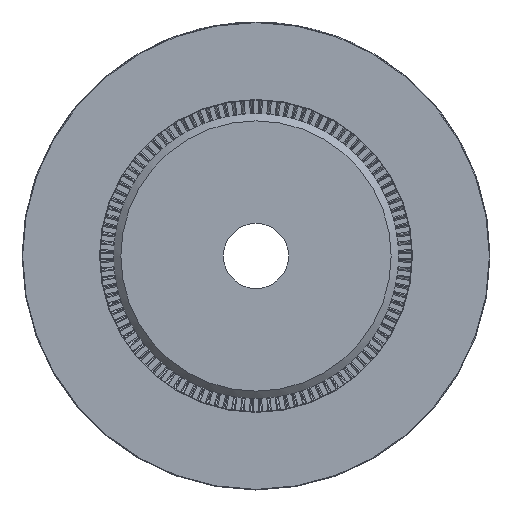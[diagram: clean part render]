
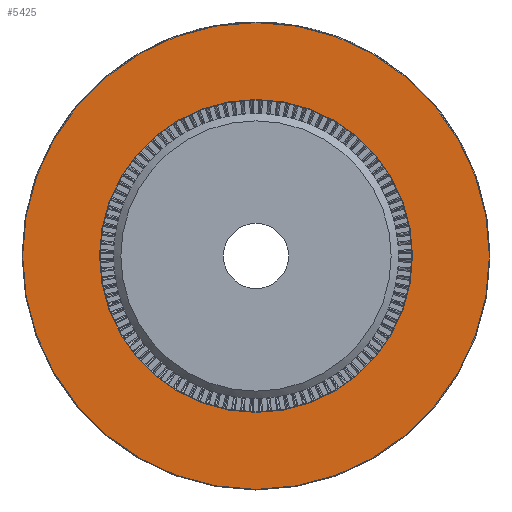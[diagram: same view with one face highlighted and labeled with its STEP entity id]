
A CAD part, top view. The second image highlights one B-rep face of the part: STEP entity #5425.
In plain terms, the highlighted planar face has unit normal (0, 0, 1).
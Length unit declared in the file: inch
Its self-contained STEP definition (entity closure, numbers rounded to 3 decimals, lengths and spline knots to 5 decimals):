
#2394 = FACE_BOUND ( 'NONE', #46452, .T. ) ;
#2892 = CARTESIAN_POINT ( 'NONE',  ( 0., 12.55, 1. ) ) ;
#3086 = CIRCLE ( 'NONE', #54139, 12.52 ) ;
#5425 = ADVANCED_FACE ( 'NONE', ( #2394, #26599 ), #48315, .F. ) ;
#5782 = EDGE_CURVE ( 'NONE', #21235, #21235, #3086, .T. ) ;
#6218 = DIRECTION ( 'NONE',  ( 0., 0., -1. ) ) ;
#6561 = DIRECTION ( 'NONE',  ( 0., 0., 1. ) ) ;
#7211 = EDGE_CURVE ( 'NONE', #56023, #56023, #10209, .T. ) ;
#10209 = CIRCLE ( 'NONE', #33265, 8.3925 ) ;
#14536 = ORIENTED_EDGE ( 'NONE', *, *, #5782, .T. ) ;
#15559 = CARTESIAN_POINT ( 'NONE',  ( -8.3925, 0., 1. ) ) ;
#21132 = DIRECTION ( 'NONE',  ( 0., 0., -1. ) ) ;
#21235 = VERTEX_POINT ( 'NONE', #29123 ) ;
#26599 = FACE_OUTER_BOUND ( 'NONE', #31691, .T. ) ;
#29123 = CARTESIAN_POINT ( 'NONE',  ( -12.52, 0., 1. ) ) ;
#31691 = EDGE_LOOP ( 'NONE', ( #14536 ) ) ;
#33265 = AXIS2_PLACEMENT_3D ( 'NONE', #33450, #6218, #37956 ) ;
#33450 = CARTESIAN_POINT ( 'NONE',  ( 0., 0., 1. ) ) ;
#33799 = CARTESIAN_POINT ( 'NONE',  ( 0., 0., 1. ) ) ;
#36603 = ORIENTED_EDGE ( 'NONE', *, *, #7211, .T. ) ;
#37956 = DIRECTION ( 'NONE',  ( -1., 0., 0. ) ) ;
#38290 = DIRECTION ( 'NONE',  ( -1., 0., 0. ) ) ;
#46452 = EDGE_LOOP ( 'NONE', ( #36603 ) ) ;
#48315 = PLANE ( 'NONE',  #49172 ) ;
#49172 = AXIS2_PLACEMENT_3D ( 'NONE', #2892, #21132, #52887 ) ;
#52887 = DIRECTION ( 'NONE',  ( -1., 0., 0. ) ) ;
#54139 = AXIS2_PLACEMENT_3D ( 'NONE', #33799, #6561, #38290 ) ;
#56023 = VERTEX_POINT ( 'NONE', #15559 ) ;
